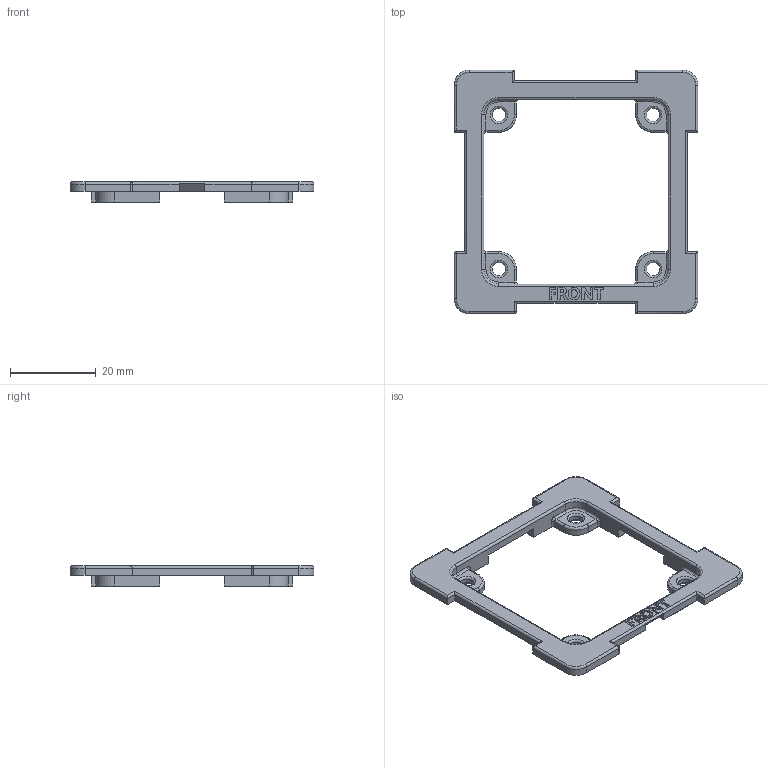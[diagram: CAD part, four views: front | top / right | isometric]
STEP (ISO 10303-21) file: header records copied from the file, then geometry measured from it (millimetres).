
FILE_DESCRIPTION(/* description */ (''),/* implementation_level */ '2;1');
FILE_NAME(/* name */ 'C:/Users/Ken.Diep/repos/hardware/Structure/Fusion/top_cap v10.step',/* time_stamp */ '2019-08-21T11:30:39+01:00',/* author */ (''),/* organization */ (''),/* preprocessor_version */ 'ST-DEVELOPER v18',/* originating_system */ 'Autodesk Translation Framework v8.6.0.1094',/* authorisation */ '');
FILE_SCHEMA (('AUTOMOTIVE_DESIGN { 1 0 10303 214 3 1 1 }'));
Length unit declared in the file: millimetre
Products named in the file (1): top_cap
Bounding box: 56.82 x 56.82 x 4.7 mm (x, y, z)
Volume: 3236.6 mm3; surface area: 4042.4 mm2
Topology: 1 solids, 1 shells, 259 faces, 674 edges, 424 vertices
Faces by surface type: plane 119, cylinder 70, bspline 36, torus 32, sphere 2
Full cylindrical faces by diameter (mm): 3.1 x4
Entity records: 8241 total; most frequent: CARTESIAN_POINT 1970, ORIENTED_EDGE 1348, DIRECTION 1218, EDGE_CURVE 674, LINE 434, VECTOR 434, VERTEX_POINT 424, AXIS2_PLACEMENT_3D 392
